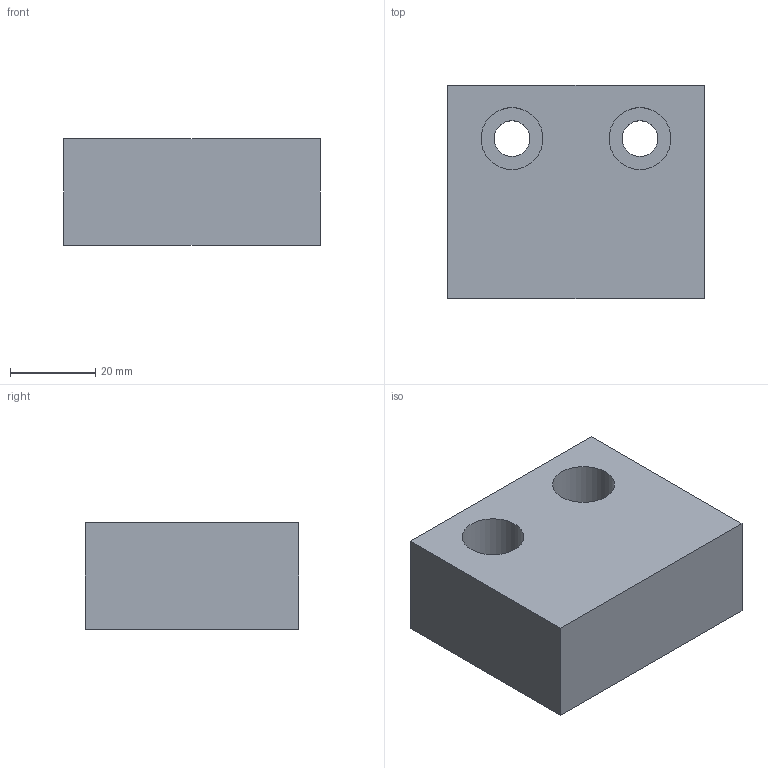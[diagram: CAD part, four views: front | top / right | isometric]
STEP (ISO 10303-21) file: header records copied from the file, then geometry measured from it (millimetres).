
FILE_DESCRIPTION(/* description */ ('PANCAKE STOP ASSEMBLY'),/* implementation_level */ '2;1');
FILE_NAME(/* name */ 'C:\Users\rcarver\Desktop\PANCAKE STOPS\WPS-03-00.stp',/* time_stamp */ '2016-12-20T14:49:19-05:00',/* author */ ('rcarver'),/* organization */ (''),/* preprocessor_version */ 'ST-DEVELOPER v16.5',/* originating_system */ 'Autodesk Inventor 2017',/* authorisation */ '');
FILE_SCHEMA (('AUTOMOTIVE_DESIGN { 1 0 10303 214 3 1 1 }'));
Length unit declared in the file: millimetre
Products named in the file (2): WPSL01; WPSE03
Assembly tree (1 placements, depth 2):
  WPSL01
    WPSE03
Bounding box: 60 x 50 x 25 mm (x, y, z)
Volume: 69384.2 mm3; surface area: 13095.5 mm2
Topology: 1 solids, 1 shells, 12 faces, 24 edges, 16 vertices
Faces by surface type: plane 8, cylinder 4
Full cylindrical faces by diameter (mm): 8.376 x2, 14.5 x2
Entity records: 360 total; most frequent: DIRECTION 58, CARTESIAN_POINT 51, ORIENTED_EDGE 40, AXIS2_PLACEMENT_3D 23, EDGE_LOOP 22, EDGE_CURVE 20, VERTEX_POINT 16, LINE 12
